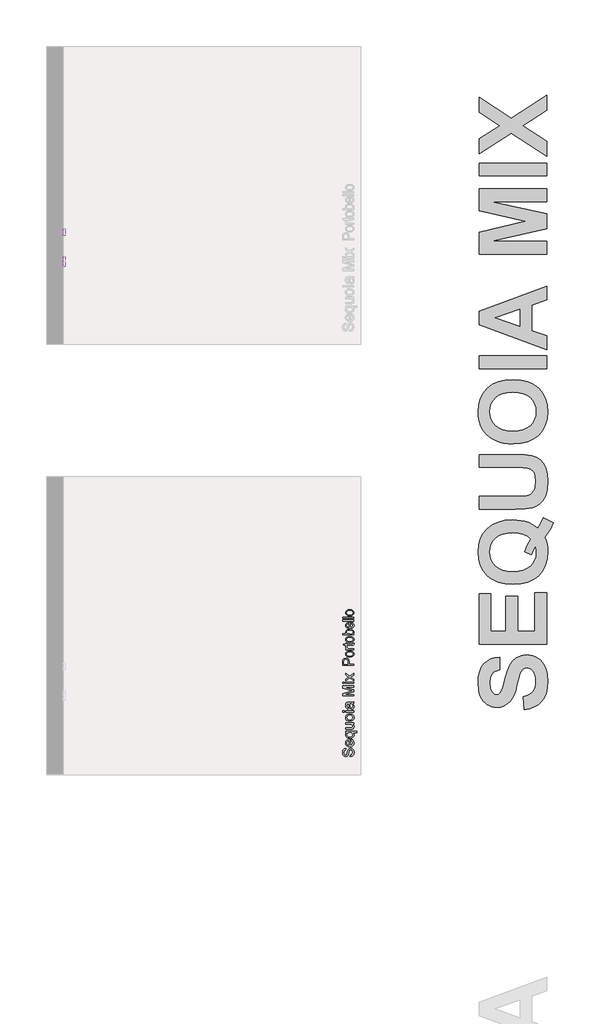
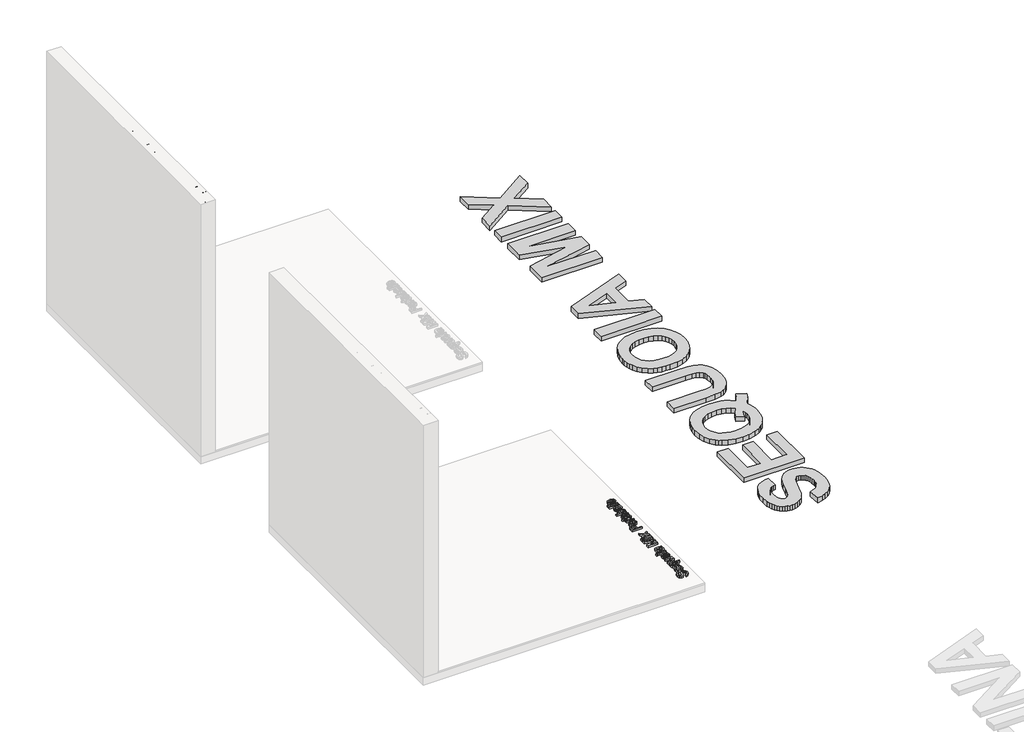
# One storey, part 9 of 10: 5 proxies.
"""IFC4 building model written with IfcOpenShell, lengths in millimetres."""

from ifc_helpers import new_model, si_unit, frame, origin, origin_with_axes, place, context, project, spatial, polyline, outline, extrude, element, save

model = new_model("IFC4")

# Units and contexts
model_context = context("Model", 3, world=origin())
ifc_project = project(units=[si_unit("LENGTHUNIT", "METRE", prefix="MILLI")], contexts=[model_context])

# Site, building, storey
site = spatial("IfcSite", under=ifc_project)
building = spatial("IfcBuilding", under=site)
storey = spatial("IfcBuildingStorey", under=building, Name="PORTOBELLO - SHOWROOM", Elevation=0.0)

# Proxies
placement = place(None, origin())
element("IfcBuildingElementProxy", 1, Name="10mm Arial", ObjectType="10mm Arial", at=placement, inside=storey, context=model_context, shape_type="SweptSolid", body=[
    extrude(outline(polyline([(154144.7037533, 10533.8091278), (154144.7037533, 10546.3661665), (154157.2730548, 10550.4128685), (154165.2193059, 10560.2966314), (154168.248201, 10575.3552677), (154165.9550699, 10588.4763922), (154159.652025, 10596.9499409), (154151.2275273, 10599.7335813), (154143.3916408, 10597.6489166), (154137.6894699, 10589.1140544), (154132.8947412, 10570.8303192), (154126.702061, 10551.1486325), (154117.3578583, 10540.4677919), (154104.8743959, 10536.9483874), (154090.6618882, 10541.3016577), (154080.6309725, 10554.018112), (154077.2096699, 10572.632941), (154080.790388, 10592.4985687), (154091.3118131, 10605.7423205), (154107.032637, 10610.7209902), (154107.032637, 10598.1639514), (154099.540107, 10595.8585576), (154094.1322417, 10591.0515662), (154089.7667087, 10573.1234503), (154094.0831907, 10555.1462835), (154104.5065139, 10549.5054262), (154113.2130545, 10553.5030772), (154120.2273379, 10574.0063671), (154126.5303827, 10596.2264396), (154136.7084513, 10608.3788082), (154150.9086963, 10612.2906201), (154165.9305444, 10607.790197), (154176.8934279, 10594.8407508), (154180.8052397, 10575.8457771), (154176.5868595, 10553.4172381), (154163.882668, 10539.2292558), (154144.7037533, 10533.8091278)])), frame((0.0, 0.0, 17.0), z_axis=(0.0, 0.0, 1.0), x_axis=(1.0, 0.0, 0.0)), (0.0, 0.0, 1.0), 20.0),
    extrude(outline(polyline([(154157.2607921, 10681.2071805), (154158.8304219, 10693.5189646), (154168.1071795, 10689.0829209), (154175.0417552, 10682.0042581), (154179.3643686, 10672.4423919), (154180.8052397, 10660.5567378), (154178.3189706, 10645.8230639), (154170.8601631, 10634.4861671), (154158.9131953, 10627.2572859), (154142.9624452, 10624.8476588), (154126.4752004, 10627.2818114), (154114.1450222, 10634.584269), (154106.4562885, 10645.7678816), (154103.8933773, 10659.8454993), (154106.4501572, 10673.4847243), (154114.1204968, 10684.3832284), (154126.4261495, 10691.5293361), (154142.8888688, 10693.9113721), (154146.2733831, 10693.8377957), (154146.2733831, 10637.4046976), (154155.6727681, 10639.578267), (154162.5828183, 10644.6274474), (154166.8318553, 10651.9145766), (154168.248201, 10660.8019925), (154165.6239761, 10673.1137766), (154157.2607921, 10681.2071805)]), holes=[polyline([(154133.7163444, 10637.4046976), (154133.7163444, 10681.3543333), (154122.336528, 10676.3266127), (154117.921944, 10669.005761), (154116.4504161, 10659.7964484), (154121.1470429, 10644.3331418), (154126.6376816, 10639.4679024), (154133.7163444, 10637.4046976)])]), frame((0.0, 0.0, 17.0), z_axis=(0.0, 0.0, 1.0), x_axis=(1.0, 0.0, 0.0)), (0.0, 0.0, 1.0), 20.0),
    extrude(outline(polyline([(154207.4889471, 10751.9876764), (154169.1801687, 10751.9876764), (154177.4943018, 10744.0168998), (154180.8052397, 10733.1275927), (154178.1902119, 10721.189822), (154170.3451283, 10711.0301476), (154157.9444394, 10704.0771779), (154141.6625955, 10701.7595213), (154121.7724423, 10705.4383412), (154108.4305886, 10716.1069191), (154103.8933773, 10731.4353356), (154107.4127817, 10743.1094575), (154117.970995, 10751.9876764), (154105.4630071, 10751.9876764), (154105.4630071, 10764.5447151), (154207.4889471, 10764.5447151), (154207.4889471, 10751.9876764)]), holes=[polyline([(154142.3493085, 10714.3165601), (154153.680074, 10715.72984), (154161.7734779, 10719.96968), (154166.6295202, 10726.1838201), (154168.248201, 10733.5200002), (154166.709228, 10740.549612), (154162.0923089, 10746.5307601), (154154.3299988, 10750.6234473), (154143.3548526, 10751.9876764), (154131.6224827, 10750.5498709), (154123.207182, 10746.2364545), (154118.1396076, 10739.9855263), (154116.4504161, 10732.7351853), (154118.0231116, 10725.6197344), (154122.7411982, 10719.6753744), (154130.7886168, 10715.6562636), (154142.3493085, 10714.3165601)])]), frame((0.0, 0.0, 17.0), z_axis=(0.0, 0.0, 1.0), x_axis=(1.0, 0.0, 0.0)), (0.0, 0.0, 1.0), 20.0),
    extrude(outline(polyline([(154179.2356099, 10830.4691687), (154166.5559438, 10830.4691687), (154177.2429158, 10820.6344567), (154180.8052397, 10807.8076378), (154178.3036422, 10795.9986257), (154172.0251228, 10787.8561709), (154162.779022, 10784.1160373), (154151.1049, 10783.3802733), (154105.4630071, 10783.3802733), (154105.4630071, 10795.937312), (154145.1942626, 10795.937312), (154157.996556, 10796.6976015), (154165.5136115, 10801.6640084), (154168.248201, 10811.0204738), (154165.4522978, 10821.5051107), (154157.8371405, 10828.433555), (154143.845362, 10830.4691687), (154105.4630071, 10830.4691687), (154105.4630071, 10843.0262074), (154179.2356099, 10843.0262074), (154179.2356099, 10830.4691687)])), frame((0.0, 0.0, 17.0), z_axis=(0.0, 0.0, 1.0), x_axis=(1.0, 0.0, 0.0)), (0.0, 0.0, 1.0), 20.0),
    extrude(outline(polyline([(154142.3493085, 10857.152876), (154124.562214, 10859.8690714), (154112.0603576, 10868.0176576), (154105.9351224, 10878.0853616), (154103.8933773, 10890.1396283), (154106.3796464, 10903.3312635), (154113.8384539, 10913.868017), (154125.6811885, 10920.7750014), (154141.3192389, 10923.0773296), (154163.6619388, 10919.0061022), (154176.3048167, 10907.1480392), (154180.8052397, 10890.1396283), (154178.3281676, 10876.7885775), (154170.8969513, 10866.2640868), (154158.8058964, 10859.4306787), (154142.3493085, 10857.152876)]), holes=[polyline([(154142.324783, 10869.7099148), (154153.689271, 10871.1630487), (154161.7857406, 10875.5224503), (154166.6325859, 10882.0830126), (154168.248201, 10890.1396283), (154166.6233888, 10898.1594558), (154161.7489524, 10904.7077553), (154153.5451839, 10909.0671569), (154141.9323756, 10910.5202908), (154130.8989814, 10909.0579599), (154122.9128764, 10904.6709671), (154118.0660312, 10898.1134705), (154116.4504161, 10890.1396283), (154118.0598998, 10882.0830126), (154122.888351, 10875.5224503), (154130.9664264, 10871.1630487), (154142.324783, 10869.7099148)])]), frame((0.0, 0.0, 17.0), z_axis=(0.0, 0.0, 1.0), x_axis=(1.0, 0.0, 0.0)), (0.0, 0.0, 1.0), 20.0),
    extrude(outline(polyline([(154091.3363385, 10937.2039982), (154078.7792997, 10937.2039982), (154078.7792997, 10949.761037), (154091.3363385, 10949.761037), (154091.3363385, 10937.2039982)])), frame((0.0, 0.0, 17.0), z_axis=(0.0, 0.0, 1.0), x_axis=(1.0, 0.0, 0.0)), (0.0, 0.0, 1.0), 20.0),
    extrude(outline(polyline([(154179.2356099, 10937.2039982), (154105.4630071, 10937.2039982), (154105.4630071, 10949.761037), (154179.2356099, 10949.761037), (154179.2356099, 10937.2039982)])), frame((0.0, 0.0, 17.0), z_axis=(0.0, 0.0, 1.0), x_axis=(1.0, 0.0, 0.0)), (0.0, 0.0, 1.0), 20.0),
    extrude(outline(polyline([(154169.8178308, 11015.6854905), (154178.3281676, 11003.5085965), (154180.8052397, 10990.0563782), (154179.3153177, 10979.5625443), (154174.8455514, 10971.8216939), (154168.0581286, 10967.0484251), (154159.6152368, 10965.4573354), (154149.682423, 10967.8608311), (154142.4719358, 10974.1761387), (154138.3516575, 10982.9685184), (154136.4631966, 10993.8333), (154132.1467145, 11015.6119141), (154129.3508114, 11015.6854905), (154120.0801851, 11012.2273997), (154116.4504161, 10998.3459858), (154118.8661745, 10985.6417942), (154127.437825, 10979.584004), (154125.8681951, 10967.0269653), (154113.605462, 10972.4593561), (154106.4195003, 10983.3977141), (154103.8933773, 10999.9646666), (154106.1251947, 11015.1827184), (154111.7292638, 11023.7788944), (154120.2518633, 11027.6293926), (154131.2392723, 11028.2425293), (154146.8619943, 11028.2425293), (154168.6773966, 11028.8801914), (154179.2356099, 11031.381789), (154179.2356099, 11018.8247502), (154169.8178308, 11015.6854905)]), holes=[polyline([(154144.7037533, 11015.6854905), (154148.5542515, 10995.4274553), (154150.5898652, 10984.6239874), (154153.9008032, 10979.7311568), (154158.73232, 10978.0143742), (154165.5258742, 10981.7545078), (154168.248201, 10992.729654), (154165.2438313, 11005.4338456), (154157.9720306, 11013.6253513), (154148.2599459, 11015.6119141), (154144.7037533, 11015.6854905)])]), frame((0.0, 0.0, 17.0), z_axis=(0.0, 0.0, 1.0), x_axis=(1.0, 0.0, 0.0)), (0.0, 0.0, 1.0), 20.0),
    extrude(outline(polyline([(154179.2356099, 11086.3188336), (154078.7792997, 11086.3188336), (154078.7792997, 11107.9257694), (154149.5843211, 11128.4781102), (154164.3731773, 11132.622914), (154148.3580478, 11137.1110744), (154078.7792997, 11157.3200586), (154078.7792997, 11178.9269945), (154179.2356099, 11178.9269945), (154179.2356099, 11166.3699557), (154091.3363385, 11166.3699557), (154179.2356099, 11141.1332509), (154179.2356099, 11124.1125772), (154091.3363385, 11098.8758723), (154179.2356099, 11098.8758723), (154179.2356099, 11086.3188336)])), frame((0.0, 0.0, 17.0), z_axis=(0.0, 0.0, 1.0), x_axis=(1.0, 0.0, 0.0)), (0.0, 0.0, 1.0), 20.0),
    extrude(outline(polyline([(154091.3363385, 11199.3321825), (154078.7792997, 11199.3321825), (154078.7792997, 11211.8892213), (154091.3363385, 11211.8892213), (154091.3363385, 11199.3321825)])), frame((0.0, 0.0, 17.0), z_axis=(0.0, 0.0, 1.0), x_axis=(1.0, 0.0, 0.0)), (0.0, 0.0, 1.0), 20.0),
    extrude(outline(polyline([(154179.2356099, 11199.3321825), (154105.4630071, 11199.3321825), (154105.4630071, 11211.8892213), (154179.2356099, 11211.8892213), (154179.2356099, 11199.3321825)])), frame((0.0, 0.0, 17.0), z_axis=(0.0, 0.0, 1.0), x_axis=(1.0, 0.0, 0.0)), (0.0, 0.0, 1.0), 20.0),
    extrude(outline(polyline([(154179.2356099, 11222.8766302), (154142.1531048, 11249.7074904), (154105.4630071, 11224.44626), (154105.4630071, 11239.5539473), (154123.1213429, 11251.7431041), (154131.4600015, 11257.4330123), (154124.6419218, 11262.362631), (154105.4630071, 11276.244045), (154105.4630071, 11291.3517322), (154142.1531048, 11264.8151776), (154179.2356099, 11290.3707136), (154179.2356099, 11275.2630263), (154156.941961, 11259.8855589), (154152.8707336, 11257.0651303), (154179.2356099, 11237.9843175), (154179.2356099, 11222.8766302)])), frame((0.0, 0.0, 17.0), z_axis=(0.0, 0.0, 1.0), x_axis=(1.0, 0.0, 0.0)), (0.0, 0.0, 1.0), 20.0),
])
element("IfcBuildingElementProxy", 2, Name="10mm Arial", ObjectType="10mm Arial", at=placement, inside=storey, context=model_context, shape_type="SweptSolid", body=[
    extrude(outline(polyline([(14424.1564507, 2586.9016378), (14436.7134894, 2586.9016378), (14440.7601914, 2574.3323363), (14450.6439543, 2566.3860852), (14465.7025906, 2563.3571901), (14478.8237151, 2565.6503212), (14487.2972638, 2571.9533661), (14490.0809042, 2580.3778638), (14487.9962396, 2588.2137503), (14479.4613773, 2593.9159212), (14461.1776421, 2598.7106499), (14441.4959554, 2604.9033301), (14430.8151148, 2614.2475328), (14427.2957103, 2626.7309952), (14431.6489806, 2640.9435029), (14444.3654349, 2650.9744187), (14462.9802639, 2654.3957212), (14482.8458916, 2650.8150031), (14496.0896434, 2640.2935781), (14501.0683131, 2624.5727541), (14488.5112743, 2624.5727541), (14486.2058805, 2632.0652841), (14481.3988891, 2637.4731494), (14463.4707732, 2641.8386824), (14445.4936064, 2637.5222004), (14439.8527491, 2627.0988772), (14443.8504001, 2618.3923366), (14464.35369, 2611.3780532), (14486.5737625, 2605.0750084), (14498.7261311, 2594.8969399), (14502.637943, 2580.6966948), (14498.1375199, 2565.6748467), (14485.1880737, 2554.7119632), (14466.1931, 2550.8001514), (14443.764561, 2555.0185316), (14429.5765787, 2567.7227231), (14424.1564507, 2586.9016378)])), frame((151543.1527225, 0.0, 0.0), z_axis=(1.0, 0.0, 0.0), x_axis=(0.0, 1.0, 0.0)), (0.0, 0.0, 1.0), 20.0),
    extrude(outline(polyline([(14571.5545034, 2574.3445991), (14583.8662875, 2572.7749692), (14579.4302438, 2563.4982116), (14572.351581, 2556.563636), (14562.7897149, 2552.2410225), (14550.9040607, 2550.8001514), (14536.1703868, 2553.2864205), (14524.83349, 2560.745228), (14517.6046088, 2572.6921958), (14515.1949817, 2588.6429459), (14517.6291343, 2605.1301907), (14524.9315919, 2617.4603689), (14536.1152045, 2625.1491026), (14550.1928222, 2627.7120138), (14563.8320472, 2625.155234), (14574.7305513, 2617.4848944), (14581.876659, 2605.1792416), (14584.258695, 2588.7165223), (14584.1851186, 2585.332008), (14527.7520205, 2585.332008), (14529.92559, 2575.932623), (14534.9747703, 2569.0225729), (14542.2618995, 2564.7735358), (14551.1493154, 2563.3571901), (14563.4610995, 2565.981415), (14571.5545034, 2574.3445991)]), holes=[polyline([(14527.7520205, 2597.8890467), (14571.7016562, 2597.8890467), (14566.6739356, 2609.2688631), (14559.3530839, 2613.6834471), (14550.1437713, 2615.1549751), (14534.6804647, 2610.4583482), (14529.8152254, 2604.9677095), (14527.7520205, 2597.8890467)])]), frame((151543.1527225, 0.0, 0.0), z_axis=(1.0, 0.0, 0.0), x_axis=(0.0, 1.0, 0.0)), (0.0, 0.0, 1.0), 20.0),
    extrude(outline(polyline([(14642.3349993, 2524.116444), (14642.3349993, 2562.4252224), (14634.3642227, 2554.1110893), (14623.4749156, 2550.8001514), (14611.5371449, 2553.4151792), (14601.3774705, 2561.2602628), (14594.4245008, 2573.6609517), (14592.1068442, 2589.9427957), (14595.7856641, 2609.8329489), (14606.454242, 2623.1748025), (14621.7826585, 2627.7120138), (14633.4567804, 2624.1926094), (14642.3349993, 2613.6343961), (14642.3349993, 2626.142384), (14654.892038, 2626.142384), (14654.892038, 2524.116444), (14642.3349993, 2524.116444)]), holes=[polyline([(14604.663883, 2589.2560826), (14606.077163, 2577.9253171), (14610.3170029, 2569.8319132), (14616.531143, 2564.9758709), (14623.8673231, 2563.3571901), (14630.8969349, 2564.8961631), (14636.878083, 2569.5130822), (14640.9707702, 2577.2753923), (14642.3349993, 2588.2505385), (14640.8971938, 2599.9829084), (14636.5837774, 2608.3982091), (14630.3328492, 2613.4657836), (14623.0825082, 2615.1549751), (14615.9670573, 2613.5822795), (14610.0226974, 2608.8641929), (14606.0035866, 2600.8167743), (14604.663883, 2589.2560826)])]), frame((151543.1527225, 0.0, 0.0), z_axis=(1.0, 0.0, 0.0), x_axis=(0.0, 1.0, 0.0)), (0.0, 0.0, 1.0), 20.0),
    extrude(outline(polyline([(14720.8164916, 2552.3697812), (14720.8164916, 2565.0494473), (14710.9817796, 2554.3624754), (14698.1549607, 2550.8001514), (14686.3459486, 2553.3017489), (14678.2034938, 2559.5802683), (14674.4633602, 2568.8263691), (14673.7275962, 2580.5004911), (14673.7275962, 2626.142384), (14686.284635, 2626.142384), (14686.284635, 2586.4111285), (14687.0449244, 2573.6088351), (14692.0113313, 2566.0917796), (14701.3677968, 2563.3571901), (14711.8524336, 2566.1530933), (14718.7808779, 2573.7682506), (14720.8164916, 2587.7600291), (14720.8164916, 2626.142384), (14733.3735303, 2626.142384), (14733.3735303, 2552.3697812), (14720.8164916, 2552.3697812)])), frame((151543.1527225, 0.0, 0.0), z_axis=(1.0, 0.0, 0.0), x_axis=(0.0, 1.0, 0.0)), (0.0, 0.0, 1.0), 20.0),
    extrude(outline(polyline([(14747.5001989, 2589.2560826), (14750.2163943, 2607.0431771), (14758.3649805, 2619.5450335), (14768.4326845, 2625.6702688), (14780.4869512, 2627.7120138), (14793.6785864, 2625.2257447), (14804.2153399, 2617.7669372), (14811.1223243, 2605.9242027), (14813.4246525, 2590.2861522), (14809.3534251, 2567.9434523), (14797.4953621, 2555.3005744), (14780.4869512, 2550.8001514), (14767.1359004, 2553.2772235), (14756.6114097, 2560.7084398), (14749.7780016, 2572.7994947), (14747.5001989, 2589.2560826)]), holes=[polyline([(14760.0572377, 2589.2806081), (14761.5103716, 2577.9161201), (14765.8697732, 2569.8196505), (14772.4303355, 2564.9728052), (14780.4869512, 2563.3571901), (14788.5067787, 2564.9820023), (14795.0550782, 2569.8564387), (14799.4144798, 2578.0602072), (14800.8676137, 2589.6730155), (14799.4052828, 2600.7064097), (14795.01829, 2608.6925147), (14788.4607934, 2613.53936), (14780.4869512, 2615.1549751), (14772.4303355, 2613.5454913), (14765.8697732, 2608.7170401), (14761.5103716, 2600.6389647), (14760.0572377, 2589.2806081)])]), frame((151543.1527225, 0.0, 0.0), z_axis=(1.0, 0.0, 0.0), x_axis=(0.0, 1.0, 0.0)), (0.0, 0.0, 1.0), 20.0),
    extrude(outline(polyline([(151563.1527225, 14840.1083599), (151563.1527225, 14827.5513211), (151543.1527225, 14827.5513211), (151543.1527225, 14840.1083599), (151563.1527225, 14840.1083599)])), frame((0.0, 0.0, 2640.2690526), z_axis=(0.0, 0.0, 1.0), x_axis=(1.0, 0.0, 0.0)), (0.0, 0.0, 1.0), 12.5570388),
    extrude(outline(polyline([(151563.1527225, 14840.1083599), (151563.1527225, 14827.5513211), (151543.1527225, 14827.5513211), (151543.1527225, 14840.1083599), (151563.1527225, 14840.1083599)])), frame((0.0, 0.0, 2552.3697812), z_axis=(0.0, 0.0, 1.0), x_axis=(1.0, 0.0, 0.0)), (0.0, 0.0, 1.0), 73.7726028),
    extrude(outline(polyline([(14906.0328134, 2561.7875603), (14893.8559194, 2553.2772235), (14880.4037011, 2550.8001514), (14869.9098672, 2552.2900734), (14862.1690168, 2556.7598397), (14857.395748, 2563.5472625), (14855.8046583, 2571.9901543), (14858.208154, 2581.9229682), (14864.5234616, 2589.1334553), (14873.3158413, 2593.2537336), (14884.1806229, 2595.1421945), (14905.959237, 2599.4586766), (14906.0328134, 2602.2545798), (14902.5747226, 2611.525206), (14888.6933087, 2615.1549751), (14875.9891171, 2612.7392166), (14869.9313269, 2604.1675661), (14857.3742882, 2605.737196), (14862.806679, 2617.9999292), (14873.745037, 2625.1858908), (14890.3119895, 2627.7120138), (14905.5300413, 2625.4801964), (14914.1262173, 2619.8761273), (14917.9767155, 2611.3535278), (14918.5898522, 2600.3661188), (14918.5898522, 2584.7433968), (14919.2275143, 2562.9279945), (14921.7291119, 2552.3697812), (14909.1720731, 2552.3697812), (14906.0328134, 2561.7875603)]), holes=[polyline([(14906.0328134, 2586.9016378), (14885.7747782, 2583.0511396), (14874.9713103, 2581.0155259), (14870.0784797, 2577.7045879), (14868.3616971, 2572.8730711), (14872.1018307, 2566.0795169), (14883.0769769, 2563.3571901), (14895.7811685, 2566.3615598), (14903.9726742, 2573.6333605), (14905.959237, 2583.3454452), (14906.0328134, 2586.9016378)])]), frame((151543.1527225, 0.0, 0.0), z_axis=(1.0, 0.0, 0.0), x_axis=(0.0, 1.0, 0.0)), (0.0, 0.0, 1.0), 20.0),
    extrude(outline(polyline([(14976.6661565, 2552.3697812), (14976.6661565, 2652.8260914), (14998.2730923, 2652.8260914), (15018.8254331, 2582.02107), (15022.9702369, 2567.2322138), (15027.4583973, 2583.2473433), (15047.6673815, 2652.8260914), (15069.2743174, 2652.8260914), (15069.2743174, 2552.3697812), (15056.7172786, 2552.3697812), (15056.7172786, 2640.2690526), (15031.4805738, 2552.3697812), (15014.4599001, 2552.3697812), (14989.2231952, 2640.2690526), (14989.2231952, 2552.3697812), (14976.6661565, 2552.3697812)])), frame((151543.1527225, 0.0, 0.0), z_axis=(1.0, 0.0, 0.0), x_axis=(0.0, 1.0, 0.0)), (0.0, 0.0, 1.0), 20.0),
    extrude(outline(polyline([(151563.1527225, 15102.2365442), (151563.1527225, 15089.6795054), (151543.1527225, 15089.6795054), (151543.1527225, 15102.2365442), (151563.1527225, 15102.2365442)])), frame((0.0, 0.0, 2640.2690526), z_axis=(0.0, 0.0, 1.0), x_axis=(1.0, 0.0, 0.0)), (0.0, 0.0, 1.0), 12.5570388),
    extrude(outline(polyline([(151563.1527225, 15102.2365442), (151563.1527225, 15089.6795054), (151543.1527225, 15089.6795054), (151543.1527225, 15102.2365442), (151563.1527225, 15102.2365442)])), frame((0.0, 0.0, 2552.3697812), z_axis=(0.0, 0.0, 1.0), x_axis=(1.0, 0.0, 0.0)), (0.0, 0.0, 1.0), 73.7726028),
    extrude(outline(polyline([(15113.2239531, 2552.3697812), (15140.0548133, 2589.4522863), (15114.7935829, 2626.142384), (15129.9012702, 2626.142384), (15142.090427, 2608.4840482), (15147.7803352, 2600.1453897), (15152.7099539, 2606.9634693), (15166.5913679, 2626.142384), (15181.6990551, 2626.142384), (15155.1625005, 2589.4522863), (15180.7180365, 2552.3697812), (15165.6103492, 2552.3697812), (15150.2328818, 2574.6634301), (15147.4124532, 2578.7346575), (15128.3316404, 2552.3697812), (15113.2239531, 2552.3697812)])), frame((151543.1527225, 0.0, 0.0), z_axis=(1.0, 0.0, 0.0), x_axis=(0.0, 1.0, 0.0)), (0.0, 0.0, 1.0), 20.0),
])
element("IfcBuildingElementProxy", 3, Name="10mm Arial Narrow", ObjectType="10mm Arial Narrow", at=placement, inside=storey, context=model_context, shape_type="SweptSolid", body=[
    extrude(outline(polyline([(154179.2356099, 11365.8319169), (154078.5170061, 11365.8319169), (154078.5170061, 11397.1288016), (154080.3953269, 11413.4245031), (154089.8757701, 11424.8974892), (154106.8948789, 11429.1871677), (154118.9707044, 11427.4008593), (154128.5970982, 11422.0419341), (154134.8983566, 11412.2981452), (154136.9987761, 11397.357246), (154136.9987761, 11375.5788786), (154179.2356099, 11375.5788786), (154179.2356099, 11365.8319169)]), holes=[polyline([(154125.6273208, 11375.5788786), (154125.6273208, 11398.5502335), (154121.0965066, 11414.4144289), (154107.4279158, 11419.440206), (154097.2621394, 11416.9653915), (154091.4621896, 11410.9877627), (154089.8884614, 11398.3217891), (154089.8884614, 11375.5788786), (154125.6273208, 11375.5788786)])]), frame((0.0, 0.0, 17.0), z_axis=(0.0, 0.0, 1.0), x_axis=(1.0, 0.0, 0.0)), (0.0, 0.0, 1.0), 20.0),
    extrude(outline(polyline([(154142.6845037, 11437.3096357), (154126.0937281, 11439.2641046), (154114.1416433, 11445.1275112), (154106.9170888, 11453.9860779), (154104.5089039, 11464.9260271), (154106.9170888, 11475.7390626), (154114.1416433, 11484.6230121), (154125.9033578, 11490.5625668), (154141.9230223, 11492.5424184), (154159.0849089, 11490.5974681), (154171.2273641, 11484.762617), (154178.4519186, 11475.9135688), (154180.8601035, 11464.9260271), (154178.445573, 11454.0653989), (154171.2019813, 11445.190968), (154159.2435509, 11439.2799688), (154142.6845037, 11437.3096357)]), holes=[polyline([(154142.659121, 11447.0565974), (154155.2108724, 11448.3606342), (154164.0821305, 11452.2727448), (154169.355389, 11458.1139416), (154171.1131419, 11465.2052369), (154169.3395248, 11471.9253101), (154164.0186737, 11477.6173834), (154155.1315514, 11481.5009384), (154142.659121, 11482.7954568), (154130.1454437, 11481.4914199), (154121.2868769, 11477.5793093), (154116.0136184, 11471.7381126), (154114.2558655, 11464.6468172), (154116.0231369, 11457.8791515), (154121.324951, 11452.1965967), (154130.1930362, 11448.3415972), (154142.659121, 11447.0565974)])]), frame((0.0, 0.0, 17.0), z_axis=(0.0, 0.0, 1.0), x_axis=(1.0, 0.0, 0.0)), (0.0, 0.0, 1.0), 20.0),
    extrude(outline(polyline([(154171.1131419, 11564.0201372), (154180.8601035, 11565.6446308), (154180.8601035, 11558.2836441), (154178.740647, 11550.0088798), (154172.9406972, 11545.6938187), (154158.294872, 11544.5262139), (154115.8803592, 11544.5262139), (154115.8803592, 11536.4037459), (154112.6313719, 11536.4037459), (154117.5048528, 11534.7792522), (154115.8803592, 11527.2152039), (154118.2028774, 11521.1360442), (154124.6881604, 11517.2651805), (154140.095467, 11515.2853289), (154179.2356099, 11515.2853289), (154179.2356099, 11505.5383673), (154106.1333975, 11505.5383673), (154106.1333975, 11515.2853289), (154115.8295937, 11515.2853289), (154106.7425826, 11521.5294762), (154104.5089039, 11527.9259198), (154106.1333975, 11536.4037459), (154106.1333975, 11544.5262139), (154089.8884614, 11544.5262139), (154081.7659934, 11554.2731756), (154106.1333975, 11554.2731756), (154106.1333975, 11564.0201372), (154115.8803592, 11564.0201372), (154115.8803592, 11554.2731756), (154160.5285507, 11554.2731756), (154168.5241052, 11555.1361878), (154171.1131419, 11559.7558415), (154171.1131419, 11564.0201372)])), frame((0.0, 0.0, 17.0), z_axis=(0.0, 0.0, 1.0), x_axis=(1.0, 0.0, 0.0)), (0.0, 0.0, 1.0), 20.0),
    extrude(outline(polyline([(154142.6845037, 11570.5181116), (154126.0937281, 11572.4725805), (154114.1416433, 11578.3359871), (154106.9170888, 11587.1945538), (154104.5089039, 11598.134503), (154106.9170888, 11608.9475386), (154114.1416433, 11617.831488), (154125.9033578, 11623.7710428), (154141.9230223, 11625.7508943), (154159.0849089, 11623.805944), (154171.2273641, 11617.9710929), (154178.4519186, 11609.1220447), (154180.8601035, 11598.134503), (154178.445573, 11587.2738748), (154171.2019813, 11578.3994439), (154159.2435509, 11572.4884447), (154142.6845037, 11570.5181116)]), holes=[polyline([(154142.659121, 11580.2650733), (154155.2108724, 11581.5691102), (154164.0821305, 11585.4812207), (154169.355389, 11591.3224175), (154171.1131419, 11598.4137128), (154169.3395248, 11605.133786), (154164.0186737, 11610.8258593), (154155.1315514, 11614.7094143), (154142.659121, 11616.0039327), (154130.1454437, 11614.6998958), (154121.2868769, 11610.7877852), (154116.0136184, 11604.9465885), (154114.2558655, 11597.8552932), (154116.0231369, 11591.0876274), (154121.324951, 11585.4050726), (154130.1930362, 11581.5500731), (154142.659121, 11580.2650733)])]), frame((0.0, 0.0, 17.0), z_axis=(0.0, 0.0, 1.0), x_axis=(1.0, 0.0, 0.0)), (0.0, 0.0, 1.0), 20.0),
    extrude(outline(polyline([(154179.2356099, 11648.4938049), (154179.2356099, 11638.7468432), (154078.5170061, 11638.7468432), (154078.5170061, 11648.4938049), (154113.9258903, 11648.4938049), (154106.8441135, 11655.8928656), (154104.5089039, 11665.0940989), (154108.7097428, 11677.9758256), (154121.4391732, 11687.2532071), (154142.126084, 11690.7306387), (154158.5804275, 11688.7983797), (154170.7831666, 11683.0016027), (154178.3408693, 11674.6284804), (154180.8601035, 11664.9671854), (154178.2456841, 11655.6263471), (154170.478574, 11648.4938049), (154179.2356099, 11648.4938049)]), holes=[polyline([(154142.126084, 11648.4938049), (154159.3736373, 11650.5751873), (154168.1052904, 11656.4639766), (154171.1131419, 11664.9164199), (154169.3236606, 11670.8591475), (154163.9552169, 11676.0975049), (154142.5322074, 11680.983677), (154121.0965066, 11676.2751839), (154115.9660258, 11671.0304809), (154114.2558655, 11664.7133582), (154116.0453468, 11658.7357294), (154121.4137905, 11653.4434338), (154142.126084, 11648.4938049)])]), frame((0.0, 0.0, 17.0), z_axis=(0.0, 0.0, 1.0), x_axis=(1.0, 0.0, 0.0)), (0.0, 0.0, 1.0), 20.0),
    extrude(outline(polyline([(154156.4926994, 11742.7144342), (154158.117193, 11752.4613958), (154168.0037596, 11748.7618655), (154175.1236105, 11742.9428786), (154179.4259802, 11735.2392253), (154180.8601035, 11725.8856957), (154178.445573, 11714.2921417), (154171.2019813, 11705.1480195), (154159.3958471, 11699.2084647), (154143.2936888, 11697.2286131), (154126.6267651, 11699.2179832), (154114.4462359, 11705.1860935), (154106.9932369, 11714.2001294), (154104.5089039, 11725.327276), (154106.9075702, 11736.0102252), (154114.1035693, 11744.7577426), (154125.8430739, 11750.5925936), (154141.8722569, 11752.537544), (154145.1212441, 11752.4613958), (154145.1212441, 11706.9755748), (154164.564402, 11712.9785863), (154169.4759569, 11718.9086226), (154171.1131419, 11726.0126093), (154167.4580312, 11736.191077), (154156.4926994, 11742.7144342)]), holes=[polyline([(154135.3742825, 11707.6355253), (154135.3742825, 11742.7144342), (154121.109198, 11738.4501385), (154115.9691986, 11732.6248059), (154114.2558655, 11725.4034242), (154119.9669759, 11713.1943394), (154135.3742825, 11707.6355253)])]), frame((0.0, 0.0, 17.0), z_axis=(0.0, 0.0, 1.0), x_axis=(1.0, 0.0, 0.0)), (0.0, 0.0, 1.0), 20.0),
    extrude(outline(polyline([(154179.2356099, 11765.4573447), (154078.5170061, 11765.4573447), (154078.5170061, 11775.2043064), (154179.2356099, 11775.2043064), (154179.2356099, 11765.4573447)])), frame((0.0, 0.0, 17.0), z_axis=(0.0, 0.0, 1.0), x_axis=(1.0, 0.0, 0.0)), (0.0, 0.0, 1.0), 20.0),
    extrude(outline(polyline([(154179.2356099, 11791.4492425), (154078.5170061, 11791.4492425), (154078.5170061, 11801.1962041), (154179.2356099, 11801.1962041), (154179.2356099, 11791.4492425)])), frame((0.0, 0.0, 17.0), z_axis=(0.0, 0.0, 1.0), x_axis=(1.0, 0.0, 0.0)), (0.0, 0.0, 1.0), 20.0),
    extrude(outline(polyline([(154142.6845037, 11812.5676594), (154126.0937281, 11814.5221282), (154114.1416433, 11820.3855349), (154106.9170888, 11829.2441016), (154104.5089039, 11840.1840507), (154106.9170888, 11850.9970863), (154114.1416433, 11859.8810357), (154125.9033578, 11865.8205905), (154141.9230223, 11867.8004421), (154159.0849089, 11865.8554917), (154171.2273641, 11860.0206406), (154178.4519186, 11851.1715925), (154180.8601035, 11840.1840507), (154178.445573, 11829.3234225), (154171.2019813, 11820.4489916), (154159.2435509, 11814.5379924), (154142.6845037, 11812.5676594)]), holes=[polyline([(154142.659121, 11822.314621), (154155.2108724, 11823.6186579), (154164.0821305, 11827.5307685), (154169.355389, 11833.3719652), (154171.1131419, 11840.4632606), (154169.3395248, 11847.1833337), (154164.0186737, 11852.875407), (154155.1315514, 11856.7589621), (154142.659121, 11858.0534804), (154130.1454437, 11856.7494436), (154121.2868769, 11852.837333), (154116.0136184, 11846.9961362), (154114.2558655, 11839.9048409), (154116.0231369, 11833.1371751), (154121.324951, 11827.4546203), (154130.1930362, 11823.5996208), (154142.659121, 11822.314621)])]), frame((0.0, 0.0, 17.0), z_axis=(0.0, 0.0, 1.0), x_axis=(1.0, 0.0, 0.0)), (0.0, 0.0, 1.0), 20.0),
])
element("IfcBuildingElementProxy", 4, Name="10mm Arial Narrow", ObjectType="10mm Arial Narrow", at=placement, inside=storey, context=model_context, shape_type="SweptSolid", body=[
    extrude(outline(polyline([(15256.1792398, 2552.3697812), (15256.1792398, 2653.088385), (15287.4761245, 2653.088385), (15303.771826, 2651.2100642), (15315.2448121, 2641.7296211), (15319.5344906, 2624.7105122), (15317.7481822, 2612.6346867), (15312.389257, 2603.0082929), (15302.6454681, 2596.7070345), (15287.7045689, 2594.606615), (15265.9262015, 2594.606615), (15265.9262015, 2552.3697812), (15256.1792398, 2552.3697812)]), holes=[polyline([(15265.9262015, 2605.9780703), (15288.8975564, 2605.9780703), (15304.7617518, 2610.5088845), (15309.7875289, 2624.1774753), (15307.3127144, 2634.3432517), (15301.3350856, 2640.1432015), (15288.669112, 2641.7169297), (15265.9262015, 2641.7169297), (15265.9262015, 2605.9780703)])]), frame((151543.1527225, 0.0, 0.0), z_axis=(1.0, 0.0, 0.0), x_axis=(0.0, 1.0, 0.0)), (0.0, 0.0, 1.0), 20.0),
    extrude(outline(polyline([(15327.6569586, 2588.9208874), (15329.6114275, 2605.511663), (15335.4748341, 2617.4637478), (15344.3334008, 2624.6883024), (15355.27335, 2627.0964872), (15366.0863855, 2624.6883024), (15374.970335, 2617.4637478), (15380.9098897, 2605.7020333), (15382.8897413, 2589.6823688), (15380.944791, 2572.5204822), (15375.1099399, 2560.378027), (15366.2608917, 2553.1534725), (15355.27335, 2550.7452876), (15344.4127218, 2553.1598181), (15335.5382909, 2560.4034098), (15329.6272917, 2572.3618403), (15327.6569586, 2588.9208874)]), holes=[polyline([(15337.4039203, 2588.9462701), (15338.7079571, 2576.3945187), (15342.6200677, 2567.5232607), (15348.4612645, 2562.2500021), (15355.5525598, 2560.4922493), (15362.272633, 2562.2658663), (15367.9647063, 2567.5867174), (15371.8482613, 2576.4738397), (15373.1427797, 2588.9462701), (15371.8387428, 2601.4599475), (15367.9266322, 2610.3185142), (15362.0854355, 2615.5917727), (15354.9941401, 2617.3495256), (15348.2264744, 2615.5822542), (15342.5439196, 2610.2804401), (15338.6889201, 2601.4123549), (15337.4039203, 2588.9462701)])]), frame((151543.1527225, 0.0, 0.0), z_axis=(1.0, 0.0, 0.0), x_axis=(0.0, 1.0, 0.0)), (0.0, 0.0, 1.0), 20.0),
    extrude(outline(polyline([(15454.3674601, 2560.4922493), (15455.9919537, 2550.7452876), (15448.6309671, 2550.7452876), (15440.3562027, 2552.8647441), (15436.0411416, 2558.6646939), (15434.8735368, 2573.3105191), (15434.8735368, 2615.725032), (15426.7510688, 2615.725032), (15426.7510688, 2618.9740192), (15425.1265751, 2614.1005384), (15417.5625268, 2615.725032), (15411.4833671, 2613.4025138), (15407.6125034, 2606.9172307), (15405.6326518, 2591.5099241), (15405.6326518, 2552.3697812), (15395.8856902, 2552.3697812), (15395.8856902, 2625.4719936), (15405.6326518, 2625.4719936), (15405.6326518, 2615.7757974), (15411.8767991, 2624.8628085), (15418.2732427, 2627.0964872), (15426.7510688, 2625.4719936), (15434.8735368, 2625.4719936), (15434.8735368, 2641.7169297), (15444.6204985, 2649.8393977), (15444.6204985, 2625.4719936), (15454.3674601, 2625.4719936), (15454.3674601, 2615.725032), (15444.6204985, 2615.725032), (15444.6204985, 2571.0768404), (15445.4835107, 2563.0812859), (15450.1031644, 2560.4922493), (15454.3674601, 2560.4922493)])), frame((151543.1527225, 0.0, 0.0), z_axis=(1.0, 0.0, 0.0), x_axis=(0.0, 1.0, 0.0)), (0.0, 0.0, 1.0), 20.0),
    extrude(outline(polyline([(15460.8654345, 2588.9208874), (15462.8199034, 2605.511663), (15468.68331, 2617.4637478), (15477.5418767, 2624.6883024), (15488.4818259, 2627.0964872), (15499.2948615, 2624.6883024), (15508.1788109, 2617.4637478), (15514.1183657, 2605.7020333), (15516.0982172, 2589.6823688), (15514.1532669, 2572.5204822), (15508.3184158, 2560.378027), (15499.4693676, 2553.1534725), (15488.4818259, 2550.7452876), (15477.6211977, 2553.1598181), (15468.7467668, 2560.4034098), (15462.8357676, 2572.3618403), (15460.8654345, 2588.9208874)]), holes=[polyline([(15470.6123962, 2588.9462701), (15471.9164331, 2576.3945187), (15475.8285436, 2567.5232607), (15481.6697404, 2562.2500021), (15488.7610357, 2560.4922493), (15495.4811089, 2562.2658663), (15501.1731822, 2567.5867174), (15505.0567372, 2576.4738397), (15506.3512556, 2588.9462701), (15505.0472187, 2601.4599475), (15501.1351081, 2610.3185142), (15495.2939114, 2615.5917727), (15488.2026161, 2617.3495256), (15481.4349503, 2615.5822542), (15475.7523955, 2610.2804401), (15471.897396, 2601.4123549), (15470.6123962, 2588.9462701)])]), frame((151543.1527225, 0.0, 0.0), z_axis=(1.0, 0.0, 0.0), x_axis=(0.0, 1.0, 0.0)), (0.0, 0.0, 1.0), 20.0),
    extrude(outline(polyline([(15538.8411278, 2552.3697812), (15529.0941661, 2552.3697812), (15529.0941661, 2653.088385), (15538.8411278, 2653.088385), (15538.8411278, 2617.6795008), (15546.2401885, 2624.7612777), (15555.4414218, 2627.0964872), (15568.3231485, 2622.8956483), (15577.60053, 2610.1662179), (15581.0779616, 2589.4793071), (15579.1457026, 2573.0249636), (15573.3489256, 2560.8222245), (15564.9758033, 2553.2645218), (15555.3145083, 2550.7452876), (15545.97367, 2553.359707), (15538.8411278, 2561.1268171), (15538.8411278, 2552.3697812)]), holes=[polyline([(15538.8411278, 2589.4793071), (15540.9225102, 2572.2317539), (15546.8112995, 2563.5001007), (15555.2637428, 2560.4922493), (15561.2064704, 2562.2817305), (15566.4448278, 2567.6501742), (15571.331, 2589.0731837), (15566.6225068, 2610.5088845), (15561.3778038, 2615.6393653), (15555.0606811, 2617.3495256), (15549.0830523, 2615.5600443), (15543.7907567, 2610.1916006), (15538.8411278, 2589.4793071)])]), frame((151543.1527225, 0.0, 0.0), z_axis=(1.0, 0.0, 0.0), x_axis=(0.0, 1.0, 0.0)), (0.0, 0.0, 1.0), 20.0),
    extrude(outline(polyline([(15633.0617571, 2575.1126917), (15642.8087187, 2573.4881981), (15639.1091884, 2563.6016316), (15633.2902015, 2556.4817807), (15625.5865482, 2552.1794109), (15616.2330186, 2550.7452876), (15604.6394646, 2553.1598181), (15595.4953424, 2560.4034098), (15589.5557876, 2572.209544), (15587.575936, 2588.3117023), (15589.5653061, 2604.978626), (15595.5334165, 2617.1591552), (15604.5474523, 2624.6121542), (15615.6745989, 2627.0964872), (15626.3575481, 2624.6978209), (15635.1050655, 2617.5018218), (15640.9399165, 2605.7623172), (15642.8848669, 2589.7331342), (15642.8087187, 2586.484147), (15597.3228977, 2586.484147), (15603.3259092, 2567.0409891), (15609.2559455, 2562.1294342), (15616.3599322, 2560.4922493), (15626.5383999, 2564.1473599), (15633.0617571, 2575.1126917)]), holes=[polyline([(15597.9828482, 2596.2311087), (15633.0617571, 2596.2311087), (15628.7974614, 2610.4961932), (15622.9721288, 2615.6361925), (15615.7507471, 2617.3495256), (15603.5416623, 2611.6384152), (15597.9828482, 2596.2311087)])]), frame((151543.1527225, 0.0, 0.0), z_axis=(1.0, 0.0, 0.0), x_axis=(0.0, 1.0, 0.0)), (0.0, 0.0, 1.0), 20.0),
    extrude(outline(polyline([(151563.1527225, 15665.5516293), (151563.1527225, 15655.8046676), (151543.1527225, 15655.8046676), (151543.1527225, 15665.5516293), (151563.1527225, 15665.5516293)])), frame((0.0, 0.0, 2552.3697812), z_axis=(0.0, 0.0, 1.0), x_axis=(1.0, 0.0, 0.0)), (0.0, 0.0, 1.0), 100.7186038),
    extrude(outline(polyline([(151563.1527225, 15691.543527), (151563.1527225, 15681.7965654), (151543.1527225, 15681.7965654), (151543.1527225, 15691.543527), (151563.1527225, 15691.543527)])), frame((0.0, 0.0, 2552.3697812), z_axis=(0.0, 0.0, 1.0), x_axis=(1.0, 0.0, 0.0)), (0.0, 0.0, 1.0), 100.7186038),
    extrude(outline(polyline([(15702.9149823, 2588.9208874), (15704.8694511, 2605.511663), (15710.7328578, 2617.4637478), (15719.5914245, 2624.6883024), (15730.5313736, 2627.0964872), (15741.3444092, 2624.6883024), (15750.2283586, 2617.4637478), (15756.1679134, 2605.7020333), (15758.147765, 2589.6823688), (15756.2028146, 2572.5204822), (15750.3679636, 2560.378027), (15741.5189154, 2553.1534725), (15730.5313736, 2550.7452876), (15719.6707455, 2553.1598181), (15710.7963145, 2560.4034098), (15704.8853153, 2572.3618403), (15702.9149823, 2588.9208874)]), holes=[polyline([(15712.6619439, 2588.9462701), (15713.9659808, 2576.3945187), (15717.8780914, 2567.5232607), (15723.7192881, 2562.2500021), (15730.8105835, 2560.4922493), (15737.5306566, 2562.2658663), (15743.2227299, 2567.5867174), (15747.106285, 2576.4738397), (15748.4008033, 2588.9462701), (15747.0967665, 2601.4599475), (15743.1846559, 2610.3185142), (15737.3434591, 2615.5917727), (15730.2521638, 2617.3495256), (15723.484498, 2615.5822542), (15717.8019432, 2610.2804401), (15713.9469438, 2601.4123549), (15712.6619439, 2588.9462701)])]), frame((151543.1527225, 0.0, 0.0), z_axis=(1.0, 0.0, 0.0), x_axis=(0.0, 1.0, 0.0)), (0.0, 0.0, 1.0), 20.0),
])
element("IfcBuildingElementProxy", 5, Name="600mm Arial", ObjectType="600mm Arial", at=placement, inside=storey, context=model_context, shape_type="SweptSolid", body=[
    extrude(outline(polyline([(155723.4583142, 10962.048299), (155713.7415581, 11078.6493733), (155741.8100784, 11085.7092039), (155765.8932104, 11095.6536966), (155785.9909542, 11108.4828513), (155802.1033097, 11124.1966679), (155814.4580133, 11142.8425917), (155823.2828017, 11164.4680676), (155828.5776747, 11189.0730957), (155830.3426323, 11216.657676), (155828.7816886, 11245.6466313), (155824.0988574, 11270.8210006), (155816.2941386, 11292.180784), (155805.3675324, 11309.7259814), (155792.3533419, 11323.4091478), (155778.2858702, 11333.1828382), (155763.1651172, 11339.0470523), (155746.9910831, 11341.0017904), (155727.1590319, 11337.7565457), (155710.4773353, 11328.0208114), (155696.376652, 11310.1624763), (155684.2876409, 11282.5494289), (155658.3256829, 11181.4344348), (155645.6578416, 11134.5017433), (155631.4907351, 11095.1223115), (155615.8243636, 11063.2961394), (155598.6587269, 11039.0232269), (155572.0799827, 11013.8488576), (155542.7494228, 10995.8671653), (155510.6670471, 10985.0781498), (155475.8328557, 10981.4818114), (155452.9073841, 10983.1329008), (155430.741034, 10988.0861691), (155409.3338055, 10996.3416162), (155388.6856986, 11007.8992423), (155369.622258, 11022.5692667), (155352.9690284, 11040.1619093), (155338.7260098, 11060.6771699), (155326.8932022, 11084.1150486), (155317.5939629, 11110.295254), (155310.9516491, 11139.0374947), (155305.6377981, 11204.2080822), (155308.949466, 11258.1199477), (155318.8844696, 11304.9245374), (155335.442809, 11344.6218514), (155358.6244842, 11377.2118896), (155387.3287688, 11402.7990313), (155420.4549366, 11421.4876556), (155458.0029877, 11433.2777626), (155499.9729219, 11438.1693523), (155499.9729219, 11321.568278), (155478.3047453, 11316.2971276), (155459.9102806, 11308.6821892), (155444.7895277, 11298.7234631), (155432.9424866, 11286.420949), (155424.0085745, 11271.26224), (155417.6272088, 11252.734929), (155412.5221162, 11205.574501), (155417.9498354, 11155.9279498), (155424.7344845, 11135.6594037), (155434.2329933, 11118.4273439), (155450.5541072, 11103.1690002), (155471.5817749, 11098.0828856), (155491.4328041, 11102.7135273), (155508.1714349, 11116.6054521), (155517.8929356, 11132.5707278), (155527.7757496, 11156.9337859), (155548.0253177, 11230.8532495), (155569.0909415, 11309.7449595), (155591.1434233, 11364.9900322), (155617.8455248, 11403.7052327), (155652.8600076, 11433.0073256), (155673.5935156, 11443.7678739), (155696.6233665, 11451.4539799), (155721.9495601, 11456.0656435), (155749.5720965, 11457.6028647), (155775.2683619, 11455.7857174), (155800.1295936, 11450.3342756), (155824.1557915, 11441.2485392), (155847.3469557, 11428.5285083), (155868.659294, 11412.4825759), (155887.0490142, 11393.4191353), (155902.5161163, 11371.3381864), (155915.0606004, 11346.2397293), (155924.7583785, 11317.9956621), (155931.6853629, 11286.4778831), (155937.2269504, 11213.6211897), (155933.8156478, 11159.1352385), (155923.5817401, 11111.3675133), (155906.5252271, 11070.318014), (155882.646109, 11035.9867406), (155852.2290563, 11008.1364678), (155815.5587396, 10986.5299699), (155772.6351589, 10971.1672469), (155723.4583142, 10962.048299)])), origin_with_axes(), (0.0, 0.0, 1.0), 50.0),
    extrude(outline(polyline([(155927.5101942, 11554.7704266), (155315.3545543, 11554.7704266), (155315.3545543, 12011.4579675), (155422.2388724, 12011.4579675), (155422.2388724, 11671.3715009), (155558.273459, 11671.3715009), (155558.273459, 11992.0244551), (155665.1577771, 11992.0244551), (155665.1577771, 11671.3715009), (155820.6258761, 11671.3715009), (155820.6258761, 12021.1747237), (155927.5101942, 12021.1747237), (155927.5101942, 11554.7704266)])), origin_with_axes(), (0.0, 0.0, 1.0), 50.0),
    extrude(outline(polyline([(155846.8914827, 12605.091041), (155875.9278831, 12651.3215451), (155898.3599257, 12701.347657), (155985.8107314, 12657.0149569), (155963.9480299, 12603.7246222), (155911.2649925, 12523.7132079), (155922.6233491, 12493.5381252), (155930.7364609, 12461.7688872), (155935.6043281, 12428.4054939), (155937.2269504, 12393.4479452), (155932.0459457, 12328.1160445), (155916.5029314, 12270.2804693), (155890.5979075, 12219.9412197), (155873.759642, 12197.582717), (155854.3308742, 12177.0982957), (155832.5583184, 12158.7726264), (155808.6886893, 12142.8903796), (155754.6582111, 12118.4561538), (155692.2394394, 12103.7956184), (155621.4323742, 12098.9087732), (155550.810345, 12103.8335745), (155488.491208, 12118.6079782), (155434.4749633, 12143.2319843), (155410.5804255, 12159.2375883), (155388.7616108, 12177.705593), (155352.3949427, 12220.6149401), (155326.4187513, 12270.5461619), (155310.8330364, 12327.4992582), (155305.6377981, 12391.4742291), (155310.8093138, 12454.8893479), (155326.3238611, 12511.3774823), (155352.1814398, 12560.9386323), (155388.38205, 12603.5727978), (155410.1024161, 12621.934051), (155433.8913886, 12637.8471371), (155487.6751523, 12662.3288079), (155549.7333413, 12677.0178105), (155620.0659554, 12681.9141446), (155694.0803092, 12676.296645), (155727.5006366, 12669.2747704), (155758.5297311, 12659.4441459), (155803.4697285, 12637.353708), (155846.8914827, 12605.091041)]), holes=[polyline([(155780.2406082, 12508.378952), (155749.5341404, 12533.3350739), (155712.9824365, 12551.1174969), (155670.5854964, 12561.764177), (155622.3433201, 12565.3130703), (155572.9197609, 12562.2955621), (155530.1669826, 12553.2430373), (155494.0849851, 12538.1554959), (155464.6737685, 12517.032938), (155441.8574206, 12491.023535), (155425.5600293, 12461.2754582), (155415.7815944, 12427.7887076), (155412.5221162, 12390.5632832), (155415.7578719, 12353.3900485), (155425.4651391, 12319.9080424), (155441.6439177, 12290.117265), (155464.2942077, 12264.0177163), (155493.4444763, 12242.7955237), (155529.1231904, 12227.6368147), (155571.3303501, 12218.5415893), (155620.0659554, 12215.5098475), (155669.5037481, 12218.4988887), (155712.2992271, 12227.4660123), (155748.4523922, 12242.4112184), (155777.9632435, 12263.3345069), (155800.8792261, 12288.8220138), (155817.2477851, 12317.4598753), (155827.0689205, 12349.2480914), (155830.3426323, 12384.186662), (155828.3689162, 12410.642049), (155822.4477679, 12435.6551049), (155804.7602352, 12398.7617963), (155791.4756076, 12361.2611904), (155723.4583142, 12394.9661884), (155747.1429075, 12453.001033), (155780.2406082, 12508.378952)])]), origin_with_axes(), (0.0, 0.0, 1.0), 50.0),
    extrude(outline(polyline([(155315.3545543, 12779.0817065), (155315.3545543, 12895.6827808), (155645.5724404, 12895.6827808), (155710.4014231, 12896.9353314), (155747.5983804, 12900.6929832), (155765.3570808, 12906.5097523), (155781.2844004, 12915.3060736), (155795.3803392, 12927.0819471), (155807.6448972, 12941.8373727), (155817.5751563, 12959.5723506), (155824.6681985, 12980.2868806), (155830.3426323, 13030.6545973), (155824.9908252, 13080.9653798), (155818.3010663, 13100.8116645), (155808.9354039, 13117.1185449), (155785.0800083, 13140.4045993), (155756.3282785, 13152.1140496), (155714.8233063, 13156.5549109), (155652.7081832, 13158.0351979), (155315.3545543, 13158.0351979), (155315.3545543, 13274.6362722), (155636.4629815, 13274.6362722), (155730.4801888, 13272.0932149), (155792.0829048, 13264.4640431), (155833.9674379, 13250.002777), (155868.8300963, 13226.9634372), (155896.9745288, 13195.0233968), (155918.7043839, 13153.8600293), (155932.5963088, 13101.0821016), (155937.2269504, 13034.2983808), (155932.1787919, 12956.0709023), (155925.8685938, 12925.0133408), (155917.0343165, 12899.3265644), (155893.8051962, 12858.1442188), (155864.5031033, 12826.6027173), (155831.3674465, 12804.4363672), (155796.6376343, 12791.3794761), (155731.5809151, 12782.1561489), (155641.4731839, 12779.0817065), (155315.3545543, 12779.0817065)])), origin_with_axes(), (0.0, 0.0, 1.0), 50.0),
    extrude(outline(polyline([(155625.2279821, 13371.8038341), (155580.420831, 13373.5213467), (155539.3713317, 13378.6738844), (155502.0794842, 13387.2614472), (155468.5452886, 13399.2840352), (155424.3074787, 13423.5189916), (155384.8141786, 13455.2312955), (155352.4945774, 13492.3713186), (155329.7778642, 13532.8894328), (155319.2165853, 13562.0586794), (155311.6728146, 13593.3914226), (155307.1465522, 13626.8876622), (155305.6377981, 13662.5473982), (155310.8709924, 13725.6493794), (155326.5705756, 13782.1090467), (155352.7365474, 13831.9264002), (155389.3689081, 13875.1014399), (155411.3229413, 13893.7829475), (155435.319486, 13909.9735874), (155489.44011, 13934.8822641), (155551.7307799, 13949.8274702), (155622.1914958, 13954.8092055), (155692.1730162, 13949.8654263), (155754.0888699, 13935.0340884), (155807.9390568, 13910.3151921), (155831.8395252, 13894.2479094), (155853.7235769, 13875.7087372), (155890.2563028, 13832.818368), (155916.351107, 13783.247729), (155932.0079896, 13726.9968202), (155937.2269504, 13664.0656414), (155932.0317121, 13600.4702313), (155916.4459972, 13543.7448714), (155890.4698058, 13493.8895618), (155854.1031377, 13450.9043025), (155808.6270107, 13416.2978476), (155755.3224425, 13391.5789512), (155694.1894329, 13376.7476134), (155625.2279821, 13371.8038341)]), holes=[polyline([(155620.9769013, 13488.4049084), (155669.3993689, 13491.5030733), (155711.5780616, 13500.7975682), (155747.5129792, 13516.2883928), (155777.2041219, 13537.9755474), (155800.4522202, 13564.4356789), (155817.0580047, 13594.2454343), (155827.0214754, 13627.4048137), (155830.3426323, 13663.9138171), (155827.045198, 13700.3848644), (155817.1528949, 13733.4303755), (155800.6657232, 13763.0503506), (155777.5836827, 13789.2447895), (155747.9067735, 13810.6662515), (155711.6349957, 13825.9672958), (155668.7683491, 13835.1479224), (155619.3068338, 13838.2081312), (155570.5332725, 13835.2285791), (155528.3640689, 13826.2899225), (155492.799223, 13811.3921615), (155463.8387348, 13790.5352962), (155441.3877141, 13764.7441406), (155425.3512708, 13735.0435089), (155415.7294048, 13701.433401), (155412.5221162, 13663.9138171), (155415.7673609, 13626.356277), (155425.5030951, 13592.632301), (155441.7293189, 13562.7418889), (155464.4460321, 13536.6850407), (155493.7006798, 13515.5624828), (155529.5407073, 13500.4749415), (155571.9661145, 13491.4224167), (155620.9769013, 13488.4049084)])]), origin_with_axes(), (0.0, 0.0, 1.0), 50.0),
    extrude(outline(polyline([(155927.5101942, 14051.9767674), (155315.3545543, 14051.9767674), (155315.3545543, 14168.5778417), (155927.5101942, 14168.5778417), (155927.5101942, 14051.9767674)])), origin_with_axes(), (0.0, 0.0, 1.0), 50.0),
    extrude(outline(polyline([(155927.5101942, 14800.1669941), (155927.5101942, 14677.6447715), (155791.4756076, 14629.6682878), (155791.4756076, 14398.4398553), (155927.5101942, 14351.0706689), (155927.5101942, 14226.8783788), (155315.3545543, 14450.3637712), (155315.3545543, 14574.5560613), (155927.5101942, 14800.1669941)]), holes=[polyline([(155684.5912895, 14592.3195062), (155461.1058971, 14513.5226865), (155684.5912895, 14435.7886369), (155684.5912895, 14592.3195062)])]), origin_with_axes(), (0.0, 0.0, 1.0), 50.0),
    extrude(outline(polyline([(155927.5101942, 15091.6696798), (155315.3545543, 15091.6696798), (155315.3545543, 15291.4704789), (155732.8714218, 15388.0307436), (155315.3545543, 15484.5910082), (155315.3545543, 15684.3918074), (155927.5101942, 15684.3918074), (155927.5101942, 15567.7907331), (155445.6198169, 15562.932355), (155927.5101942, 15456.3516855), (155927.5101942, 15319.8616259), (155445.6198169, 15213.1291321), (155927.5101942, 15208.270754), (155927.5101942, 15091.6696798)])), origin_with_axes(), (0.0, 0.0, 1.0), 50.0),
    extrude(outline(polyline([(155927.5101942, 15800.9928816), (155315.3545543, 15800.9928816), (155315.3545543, 15917.5939559), (155927.5101942, 15917.5939559), (155927.5101942, 15800.9928816)])), origin_with_axes(), (0.0, 0.0, 1.0), 50.0),
    extrude(outline(polyline([(155927.5101942, 15980.7528712), (155606.5535913, 16189.5113049), (155315.3545543, 16000.1863835), (155315.3545543, 16136.5246188), (155501.6429893, 16257.6804226), (155315.3545543, 16378.8362263), (155315.3545543, 16515.1744616), (155606.5535913, 16325.8495402), (155927.5101942, 16534.607974), (155927.5101942, 16398.2697387), (155711.312369, 16257.6804226), (155927.5101942, 16117.0911064), (155927.5101942, 15980.7528712)])), origin_with_axes(), (0.0, 0.0, 1.0), 50.0),
])

save(model, "model.ifc")
